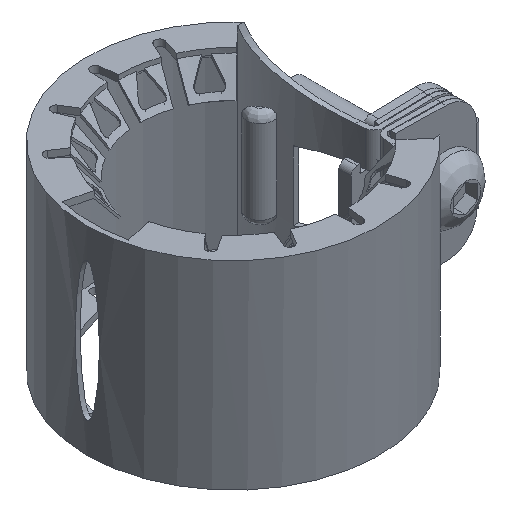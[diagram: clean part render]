
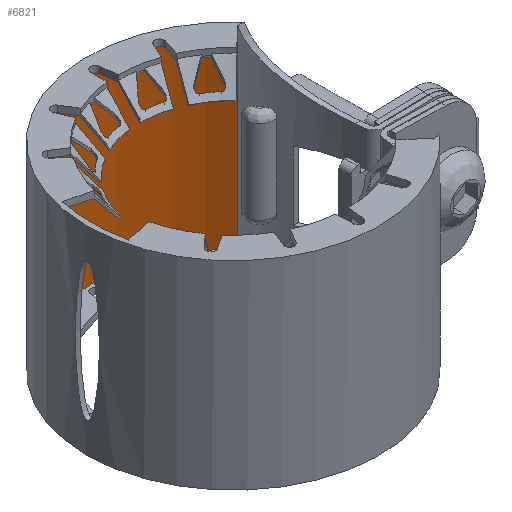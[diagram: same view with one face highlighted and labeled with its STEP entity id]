
A CAD part, isometric view. The second image highlights one B-rep face of the part: STEP entity #6821.
In plain terms, the highlighted cylindrical face has radius 23.2 mm (diameter 46.4 mm), a partial arc.
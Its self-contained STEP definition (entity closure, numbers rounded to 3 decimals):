
#889=LINE('',#12599,#1421);
#890=LINE('',#12600,#1422);
#1421=VECTOR('',#9145,30.8);
#1422=VECTOR('',#9146,30.8);
#1493=CIRCLE('',#6947,23.2);
#1695=CIRCLE('',#7403,23.2);
#1817=CYLINDRICAL_SURFACE('',#7429,23.2);
#2127=FACE_OUTER_BOUND('',#2488,.T.);
#2488=EDGE_LOOP('',(#6015,#6016,#6017,#6018));
#2708=VERTEX_POINT('',#10193);
#2709=VERTEX_POINT('',#10195);
#3201=VERTEX_POINT('',#12531);
#3202=VERTEX_POINT('',#12533);
#3391=EDGE_CURVE('',#2709,#2708,#1493,.T.);
#4151=EDGE_CURVE('',#3201,#3202,#1695,.T.);
#4178=EDGE_CURVE('',#2709,#3201,#889,.T.);
#4179=EDGE_CURVE('',#3202,#2708,#890,.T.);
#6015=ORIENTED_EDGE('',*,*,#4178,.F.);
#6016=ORIENTED_EDGE('',*,*,#3391,.T.);
#6017=ORIENTED_EDGE('',*,*,#4179,.F.);
#6018=ORIENTED_EDGE('',*,*,#4151,.F.);
#6821=ADVANCED_FACE('',(#2127),#1817,.F.);
#6947=AXIS2_PLACEMENT_3D('',#10196,#7750,#7751);
#7403=AXIS2_PLACEMENT_3D('',#12534,#9078,#9079);
#7429=AXIS2_PLACEMENT_3D('',#12598,#9143,#9144);
#7750=DIRECTION('center_axis',(0.,0.,
-1.));
#7751=DIRECTION('ref_axis',(-0.972,0.234,0.));
#9078=DIRECTION('center_axis',(0.,0.,
-1.));
#9079=DIRECTION('ref_axis',(-0.972,0.234,0.));
#9143=DIRECTION('center_axis',(0.,0.,
-1.));
#9144=DIRECTION('ref_axis',(-0.972,0.234,0.));
#9145=DIRECTION('',(0.,0.,1.));
#9146=DIRECTION('',(0.,0.,-1.));
#10193=CARTESIAN_POINT('',(16.755,16.047,-15.4));
#10195=CARTESIAN_POINT('',(-22.556,5.43,-15.4));
#10196=CARTESIAN_POINT('Origin',(0.,0.,-15.4));
#12531=CARTESIAN_POINT('',(-22.556,5.43,15.4));
#12533=CARTESIAN_POINT('',(16.755,16.047,15.4));
#12534=CARTESIAN_POINT('Origin',(0.,0.,
15.4));
#12598=CARTESIAN_POINT('Origin',(0.,0.,
0.));
#12599=CARTESIAN_POINT('',(-22.556,5.43,-15.4));
#12600=CARTESIAN_POINT('',(16.755,16.047,-15.4));
